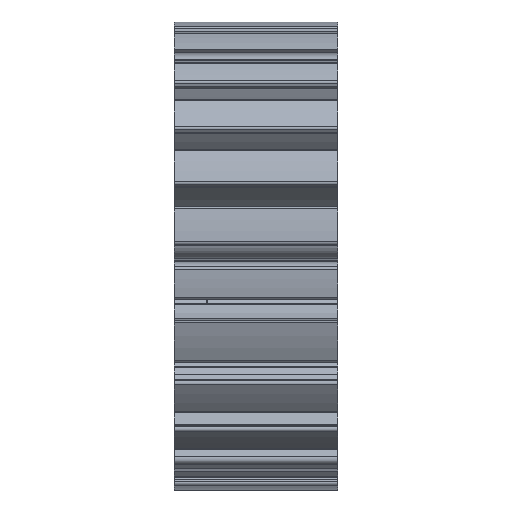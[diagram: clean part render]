
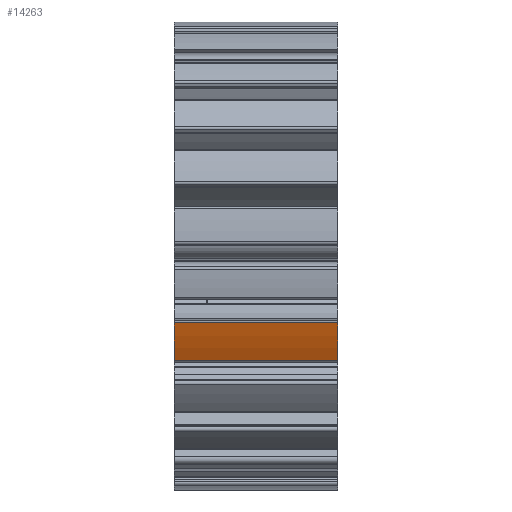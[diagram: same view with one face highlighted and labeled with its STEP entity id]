
A CAD part, left-side view. The second image highlights one B-rep face of the part: STEP entity #14263.
In plain terms, the highlighted cylindrical face has radius 43 mm (diameter 86 mm), a partial arc.
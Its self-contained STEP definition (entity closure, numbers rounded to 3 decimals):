
#63 = LINE ( 'NONE', #15976, #13658 ) ;
#699 = CARTESIAN_POINT ( 'NONE',  ( 0., 24.172, 0. ) ) ;
#704 = AXIS2_PLACEMENT_3D ( 'NONE', #10749, #2631, #12097 ) ;
#729 = CARTESIAN_POINT ( 'NONE',  ( -41.215, 24.172, -12.261 ) ) ;
#917 = AXIS2_PLACEMENT_3D ( 'NONE', #699, #10238, #2091 ) ;
#1063 = CARTESIAN_POINT ( 'NONE',  ( 0., -4.487, 0. ) ) ;
#1186 = CARTESIAN_POINT ( 'NONE',  ( -38.466, 24.172, -19.218 ) ) ;
#2091 = DIRECTION ( 'NONE',  ( 0., 0., -1. ) ) ;
#2433 = DIRECTION ( 'NONE',  ( 0., 1., 0. ) ) ;
#2493 = ORIENTED_EDGE ( 'NONE', *, *, #17481, .T. ) ;
#2631 = DIRECTION ( 'NONE',  ( 0., -1., 0. ) ) ;
#2987 = AXIS2_PLACEMENT_3D ( 'NONE', #1063, #2433, #9213 ) ;
#3142 = EDGE_LOOP ( 'NONE', ( #2493, #3183, #13092, #14768 ) ) ;
#3183 = ORIENTED_EDGE ( 'NONE', *, *, #17048, .T. ) ;
#4400 = DIRECTION ( 'NONE',  ( 0., 1., 0. ) ) ;
#4937 = CIRCLE ( 'NONE', #704, 43. ) ;
#5721 = CARTESIAN_POINT ( 'NONE',  ( -41.215, -2.95, -12.261 ) ) ;
#5778 = LINE ( 'NONE', #5721, #12082 ) ;
#5809 = VERTEX_POINT ( 'NONE', #729 ) ;
#6463 = CIRCLE ( 'NONE', #917, 43. ) ;
#9213 = DIRECTION ( 'NONE',  ( 0., 0., 1. ) ) ;
#9991 = VERTEX_POINT ( 'NONE', #1186 ) ;
#10238 = DIRECTION ( 'NONE',  ( 0., 1., 0. ) ) ;
#10749 = CARTESIAN_POINT ( 'NONE',  ( 0., 54.172, 0. ) ) ;
#12082 = VECTOR ( 'NONE', #4400, 1000. ) ;
#12097 = DIRECTION ( 'NONE',  ( 0., 0., 1. ) ) ;
#13092 = ORIENTED_EDGE ( 'NONE', *, *, #14269, .T. ) ;
#13244 = DIRECTION ( 'NONE',  ( 0., -1., 0. ) ) ;
#13658 = VECTOR ( 'NONE', #13244, 1000. ) ;
#13969 = CARTESIAN_POINT ( 'NONE',  ( -41.215, 54.172, -12.261 ) ) ;
#14012 = VERTEX_POINT ( 'NONE', #13969 ) ;
#14263 = ADVANCED_FACE ( 'NONE', ( #14494 ), #17254, .T. ) ;
#14269 = EDGE_CURVE ( 'NONE', #14869, #9991, #63, .T. ) ;
#14494 = FACE_OUTER_BOUND ( 'NONE', #3142, .T. ) ;
#14768 = ORIENTED_EDGE ( 'NONE', *, *, #15704, .T. ) ;
#14869 = VERTEX_POINT ( 'NONE', #16013 ) ;
#15704 = EDGE_CURVE ( 'NONE', #9991, #5809, #6463, .T. ) ;
#15976 = CARTESIAN_POINT ( 'NONE',  ( -38.466, -4.487, -19.218 ) ) ;
#16013 = CARTESIAN_POINT ( 'NONE',  ( -38.466, 54.172, -19.218 ) ) ;
#17048 = EDGE_CURVE ( 'NONE', #14012, #14869, #4937, .T. ) ;
#17254 = CYLINDRICAL_SURFACE ( 'NONE', #2987, 43. ) ;
#17481 = EDGE_CURVE ( 'NONE', #5809, #14012, #5778, .T. ) ;
